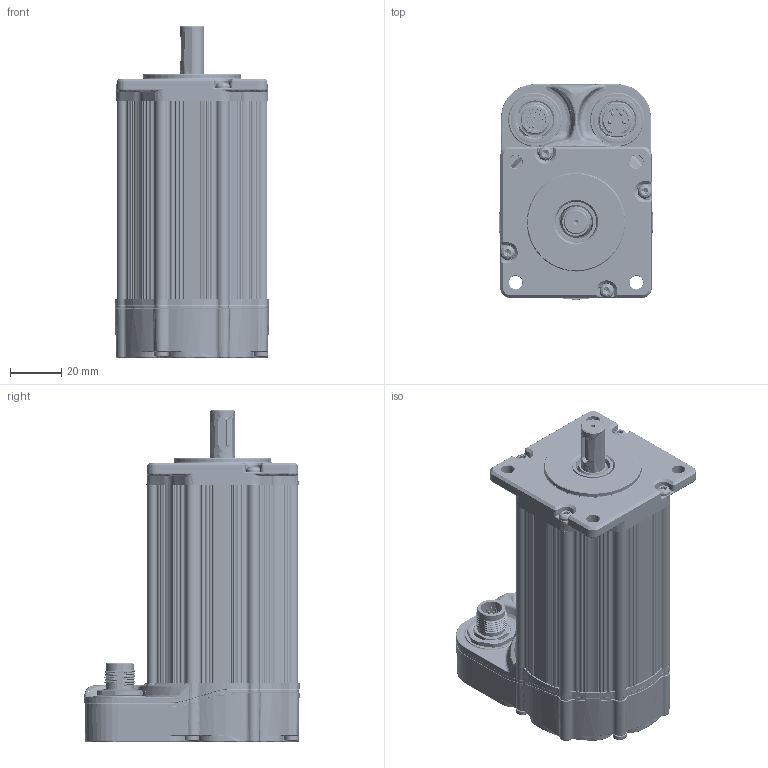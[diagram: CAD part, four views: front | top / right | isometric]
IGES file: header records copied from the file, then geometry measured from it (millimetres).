
Start section: SolidWorks IGES file using analytic representation for surfaces
Global section: file name: C:\TeknicPDM\Ganges\Ganges Customer Files\Ganges Customer Models\Ganges 233x.IGS; native system: SolidWorks 2020; preprocessor: SolidWorks 2020; author: mike_berezny; date: 230807.171755; units: inch
Bounding box: 60.26 x 84.12 x 129.64 mm (x, y, z)
Surface area: 104624.4 mm2 (no closed solid volume)
Topology: 0 solids, 0 shells, 7674 faces, 73511 edges, 73164 vertices
Faces by surface type: bspline 3908, revolution 3766
